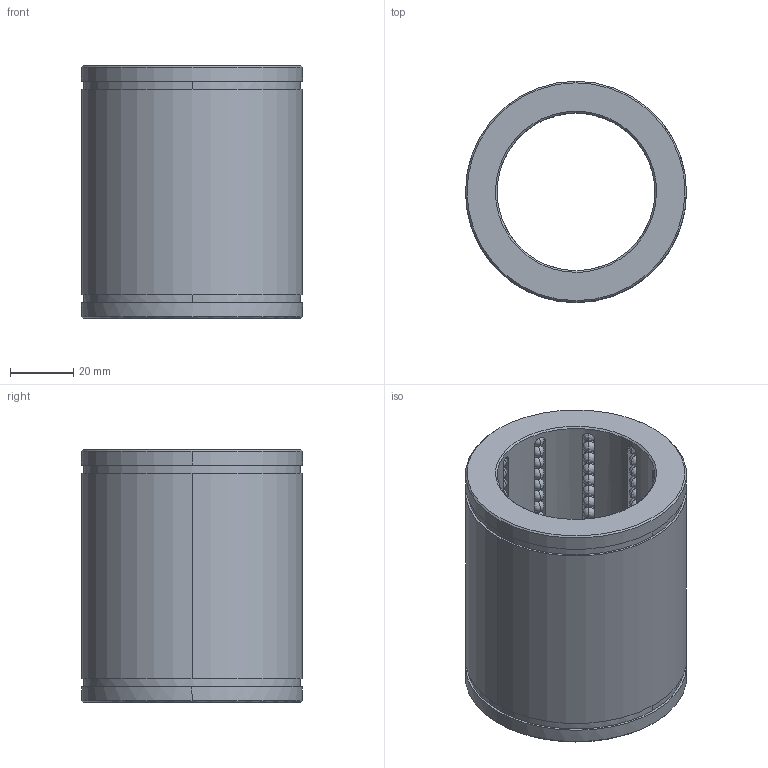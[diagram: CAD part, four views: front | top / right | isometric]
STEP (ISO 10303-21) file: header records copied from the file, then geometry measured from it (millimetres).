
FILE_DESCRIPTION(('CATIA V5 STEP Exchange'),'2;1');
FILE_NAME('C:\Users\Raffaele\Desktop\3D BOLEX\3D FILES CF BOLEX\3-BUSH REF 803\B8035080.stp','2019-06-19T14:04:53+00:00',('none'),('none'),'CATIA Version 5 Release 20 GA (IN-10)','CATIA V5 STEP AP203','none');
FILE_SCHEMA(('CONFIG_CONTROL_DESIGN'));
Length unit declared in the file: millimetre
Products named in the file (1): B8035080
Bounding box: 70 x 70 x 80 mm (x, y, z)
Volume: 144393.3 mm3; surface area: 49433.7 mm2
Topology: 181 solids, 181 shells, 804 faces, 2362 edges, 492 vertices
Faces by surface type: sphere 720, plane 36, cylinder 32, cone 16
Entity records: 14854 total; most frequent: CARTESIAN_POINT 2857, DIRECTION 2484, ORIENTED_EDGE 1844, AXIS2_PLACEMENT_3D 1571, EDGE_CURVE 922, EDGE_LOOP 818, ADVANCED_FACE 804, FACE_OUTER_BOUND 804
